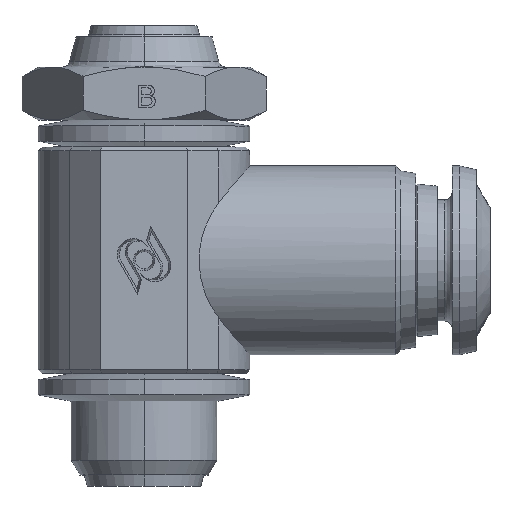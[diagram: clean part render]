
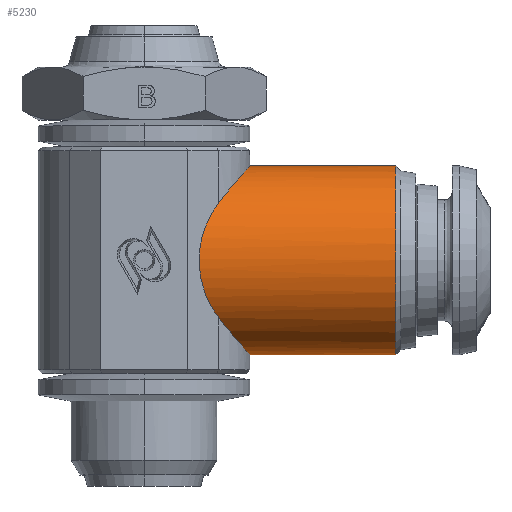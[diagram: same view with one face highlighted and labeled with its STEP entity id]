
A CAD part, top view. The second image highlights one B-rep face of the part: STEP entity #5230.
In plain terms, the highlighted cylindrical face has radius 6.25 mm (diameter 12.5 mm), a partial arc.
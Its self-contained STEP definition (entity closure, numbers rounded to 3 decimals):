
#83 = CARTESIAN_POINT ( 'NONE',  ( 6.283, 20.395, 3.096 ) ) ;
#103 = CARTESIAN_POINT ( 'NONE',  ( 7., 8.711, 0. ) ) ;
#375 = CARTESIAN_POINT ( 'NONE',  ( 4.95, 11.145, 4.95 ) ) ;
#429 = CARTESIAN_POINT ( 'NONE',  ( 6.562, 9.206, 2.45 ) ) ;
#676 = CARTESIAN_POINT ( 'NONE',  ( 3.146, 13.484, 6.753 ) ) ;
#713 = ORIENTED_EDGE ( 'NONE', *, *, #8124, .F. ) ;
#835 = CARTESIAN_POINT ( 'NONE',  ( 16.676, 14.961, 0. ) ) ;
#1056 = VECTOR ( 'NONE', #14426, 1000. ) ;
#1298 = VERTEX_POINT ( 'NONE', #13102 ) ;
#1336 = CARTESIAN_POINT ( 'NONE',  ( 5.956, 20.015, 3.684 ) ) ;
#1690 = CARTESIAN_POINT ( 'NONE',  ( 6.782, 8.956, 1.753 ) ) ;
#1887 = CARTESIAN_POINT ( 'NONE',  ( 4.95, 18.777, 4.95 ) ) ;
#2106 = DIRECTION ( 'NONE',  ( 0., 1., 0. ) ) ;
#2589 = CARTESIAN_POINT ( 'NONE',  ( 5.478, 19.444, 4.378 ) ) ;
#2774 = CARTESIAN_POINT ( 'NONE',  ( 16.676, 14.961, 0. ) ) ;
#2931 = CARTESIAN_POINT ( 'NONE',  ( 7., 8.711, 0.519 ) ) ;
#3387 = ORIENTED_EDGE ( 'NONE', *, *, #3779, .T. ) ;
#3603 = LINE ( 'NONE', #14074, #6479 ) ;
#3771 = CARTESIAN_POINT ( 'NONE',  ( 7., 21.211, 0.519 ) ) ;
#3779 = EDGE_CURVE ( 'NONE', #4044, #5868, #7936, .T. ) ;
#3824 = CARTESIAN_POINT ( 'NONE',  ( 4.95, 18.777, 4.95 ) ) ;
#4044 = VERTEX_POINT ( 'NONE', #10451 ) ;
#4186 = EDGE_LOOP ( 'NONE', ( #7806, #713, #10070, #3387, #9247, #6229 ) ) ;
#4194 = EDGE_CURVE ( 'NONE', #13743, #7842, #4337, .T. ) ;
#4337 = LINE ( 'NONE', #4564, #1056 ) ;
#4564 = CARTESIAN_POINT ( 'NONE',  ( 16.676, 8.711, 0. ) ) ;
#4660 =( BOUNDED_CURVE ( )  B_SPLINE_CURVE ( 3, ( #1887, #5586, #676, #9335 ),
 .UNSPECIFIED., .F., .F. ) 
 B_SPLINE_CURVE_WITH_KNOTS ( ( 4, 4 ),
 ( 5.626, 6.94 ),
 .UNSPECIFIED. ) 
 CURVE ( )  GEOMETRIC_REPRESENTATION_ITEM ( )  RATIONAL_B_SPLINE_CURVE ( ( 1., 0.861, 0.861, 1. ) ) 
 REPRESENTATION_ITEM ( '' )  );
#5003 = CARTESIAN_POINT ( 'NONE',  ( 7., 21.211, 0. ) ) ;
#5230 = ADVANCED_FACE ( 'NONE', ( #8964 ), #15192, .T. ) ;
#5349 = CARTESIAN_POINT ( 'NONE',  ( 5.842, 10.042, 3.862 ) ) ;
#5522 = CARTESIAN_POINT ( 'NONE',  ( 16.676, 8.711, 0. ) ) ;
#5586 = CARTESIAN_POINT ( 'NONE',  ( 3.146, 16.438, 6.753 ) ) ;
#5617 = EDGE_CURVE ( 'NONE', #5868, #9296, #4660, .T. ) ;
#5868 = VERTEX_POINT ( 'NONE', #15791 ) ;
#6229 = ORIENTED_EDGE ( 'NONE', *, *, #8343, .T. ) ;
#6243 = CARTESIAN_POINT ( 'NONE',  ( 6.714, 20.889, 1.995 ) ) ;
#6479 = VECTOR ( 'NONE', #7885, 1000. ) ;
#6579 = CARTESIAN_POINT ( 'NONE',  ( 6.18, 9.644, 3.294 ) ) ;
#7495 = CARTESIAN_POINT ( 'NONE',  ( 6.474, 20.615, 2.673 ) ) ;
#7662 = B_SPLINE_CURVE_WITH_KNOTS ( 'NONE', 3,
 ( #375, #7780, #12764, #5349, #14030, #6579, #15289, #7843, #429, #9086, #1690, #10328, #2931, #11578 ),
 .UNSPECIFIED., .F., .F.,
 ( 4, 2, 2, 2, 2, 2, 4 ),
 ( -0.006, -0.005, -0.004, -0.003, -0.002, -0.002, 0. ),
 .UNSPECIFIED. ) ;
#7686 = DIRECTION ( 'NONE',  ( 0., 1., 0. ) ) ;
#7780 = CARTESIAN_POINT ( 'NONE',  ( 5.219, 10.796, 4.681 ) ) ;
#7806 = ORIENTED_EDGE ( 'NONE', *, *, #4194, .F. ) ;
#7842 = VERTEX_POINT ( 'NONE', #103 ) ;
#7843 = CARTESIAN_POINT ( 'NONE',  ( 6.475, 9.305, 2.67 ) ) ;
#7885 = DIRECTION ( 'NONE',  ( -1., 0., 0. ) ) ;
#7936 = B_SPLINE_CURVE_WITH_KNOTS ( 'NONE', 3,
 ( #5003, #3771, #12430, #13681, #6243, #14937, #7495, #83, #8740, #1336, #9981, #2589, #11229, #3824 ),
 .UNSPECIFIED., .F., .F.,
 ( 4, 2, 2, 2, 2, 2, 4 ),
 ( 0., 0.002, 0.002, 0.003, 0.004, 0.005, 0.006 ),
 .UNSPECIFIED. ) ;
#8124 = EDGE_CURVE ( 'NONE', #1298, #13743, #11441, .T. ) ;
#8343 = EDGE_CURVE ( 'NONE', #9296, #7842, #7662, .T. ) ;
#8740 = CARTESIAN_POINT ( 'NONE',  ( 6.177, 20.273, 3.3 ) ) ;
#8964 = FACE_OUTER_BOUND ( 'NONE', #4186, .T. ) ;
#9086 = CARTESIAN_POINT ( 'NONE',  ( 6.715, 9.032, 1.993 ) ) ;
#9247 = ORIENTED_EDGE ( 'NONE', *, *, #5617, .T. ) ;
#9296 = VERTEX_POINT ( 'NONE', #11989 ) ;
#9335 = CARTESIAN_POINT ( 'NONE',  ( 4.95, 11.145, 4.95 ) ) ;
#9492 = DIRECTION ( 'NONE',  ( 1., 0., 0. ) ) ;
#9981 = CARTESIAN_POINT ( 'NONE',  ( 5.84, 19.878, 3.865 ) ) ;
#10070 = ORIENTED_EDGE ( 'NONE', *, *, #11445, .T. ) ;
#10328 = CARTESIAN_POINT ( 'NONE',  ( 6.943, 8.774, 1.022 ) ) ;
#10451 = CARTESIAN_POINT ( 'NONE',  ( 7., 21.211, 0. ) ) ;
#11229 = CARTESIAN_POINT ( 'NONE',  ( 5.219, 19.126, 4.681 ) ) ;
#11425 = DIRECTION ( 'NONE',  ( -1., 0., 0. ) ) ;
#11441 = CIRCLE ( 'NONE', #11521, 6.25 ) ;
#11445 = EDGE_CURVE ( 'NONE', #1298, #4044, #3603, .T. ) ;
#11521 = AXIS2_PLACEMENT_3D ( 'NONE', #835, #9492, #2106 ) ;
#11578 = CARTESIAN_POINT ( 'NONE',  ( 7., 8.711, 0. ) ) ;
#11989 = CARTESIAN_POINT ( 'NONE',  ( 4.95, 11.145, 4.95 ) ) ;
#12430 = CARTESIAN_POINT ( 'NONE',  ( 6.943, 21.147, 1.022 ) ) ;
#12764 = CARTESIAN_POINT ( 'NONE',  ( 5.479, 10.477, 4.377 ) ) ;
#13102 = CARTESIAN_POINT ( 'NONE',  ( 16.676, 21.211, 0. ) ) ;
#13480 = AXIS2_PLACEMENT_3D ( 'NONE', #2774, #11425, #7686 ) ;
#13681 = CARTESIAN_POINT ( 'NONE',  ( 6.781, 20.964, 1.756 ) ) ;
#13743 = VERTEX_POINT ( 'NONE', #5522 ) ;
#14030 = CARTESIAN_POINT ( 'NONE',  ( 5.958, 9.904, 3.681 ) ) ;
#14074 = CARTESIAN_POINT ( 'NONE',  ( 16.676, 21.211, 0. ) ) ;
#14426 = DIRECTION ( 'NONE',  ( -1., 0., 0. ) ) ;
#14937 = CARTESIAN_POINT ( 'NONE',  ( 6.561, 20.714, 2.453 ) ) ;
#15192 = CYLINDRICAL_SURFACE ( 'NONE', #13480, 6.25 ) ;
#15289 = CARTESIAN_POINT ( 'NONE',  ( 6.285, 9.523, 3.091 ) ) ;
#15791 = CARTESIAN_POINT ( 'NONE',  ( 4.95, 18.777, 4.95 ) ) ;
